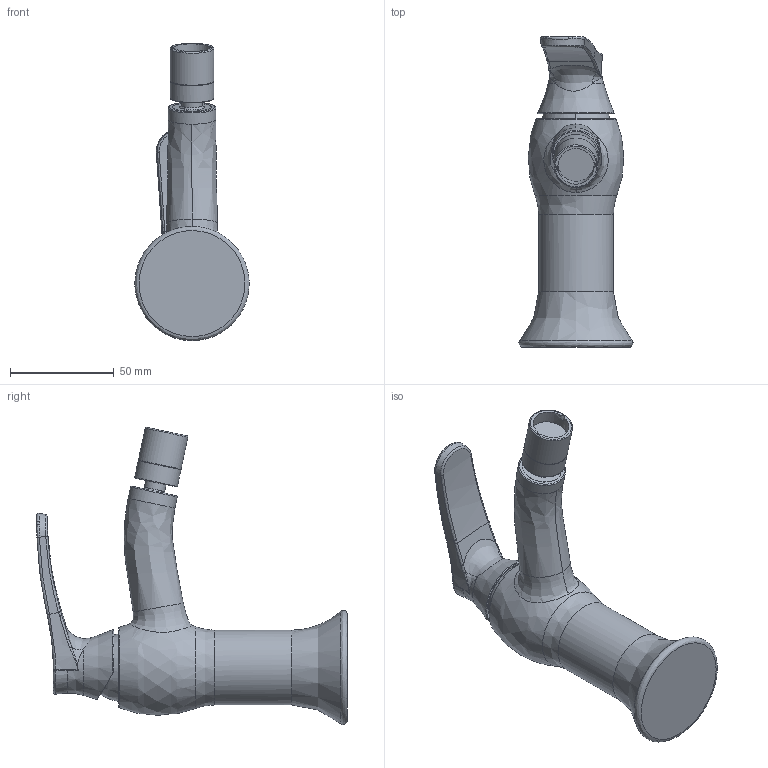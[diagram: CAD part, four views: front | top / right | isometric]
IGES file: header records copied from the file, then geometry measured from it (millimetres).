
Global section: file name: fd7da80e-5311-4400-8bdd-172e46c82f56; native system: unknown; preprocessor: unknown; author: unknown; organization: unknown; date: 20191216.130540; units: millimetre
Bounding box: 54.95 x 149.53 x 143.12 mm (x, y, z)
Volume: 198063 mm3; surface area: 37220.3 mm2
Topology: 7 solids, 7 shells, 105 faces, 355 edges, 263 vertices
Faces by surface type: bspline 105
